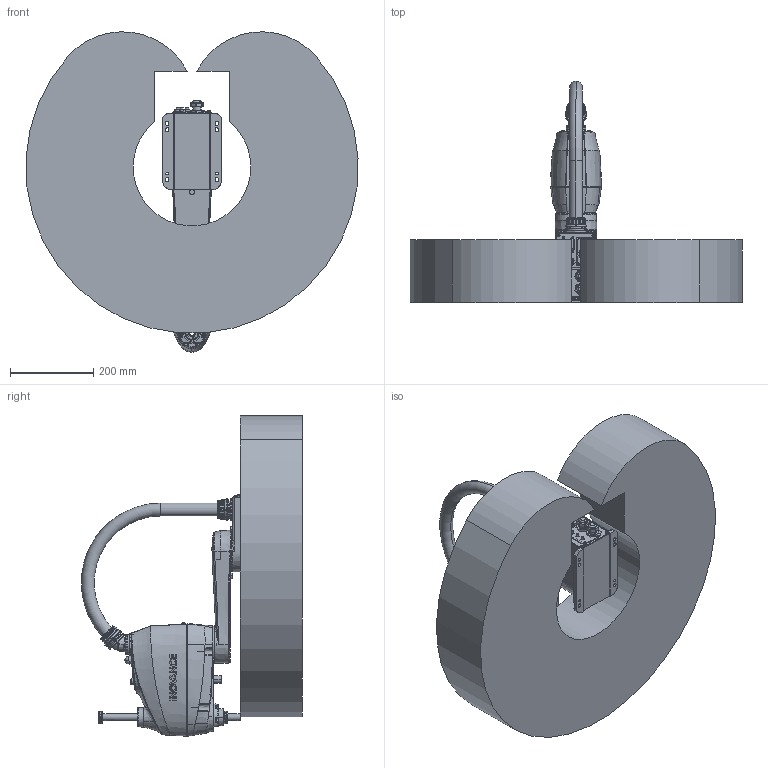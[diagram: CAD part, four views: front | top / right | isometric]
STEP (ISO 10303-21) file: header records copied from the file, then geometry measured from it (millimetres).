
FILE_DESCRIPTION((''),'2;1');
FILE_NAME('IR-S4-40Z15S3_ASM','2023-02-08T',('l2342'),(''),'CREO PARAMETRIC BY PTC INC, 2015290','CREO PARAMETRIC BY PTC INC, 2015290','');
FILE_SCHEMA(('AUTOMOTIVE_DESIGN { 1 0 10303 214 1 1 1 1 }'));
Products named in the file (7): BASE; J1; J2; SCREW; WORKING_RANGE; TUBE; IR-S4-40Z15S3_ASM
Assembly tree (6 placements, depth 2):
  IR-S4-40Z15S3_ASM
    BASE
    J1
    J2
    SCREW
    WORKING_RANGE
    TUBE
Bounding box: 798.98 x 531.7 x 770.97 mm (x, y, z)
Volume: 66762126.9 mm3; surface area: 1881219 mm2
Topology: 7 solids, 39 shells, 3730 faces, 9964 edges, 6294 vertices
Faces by surface type: plane 1537, cylinder 951, bspline 411, cone 405, extrusion 177, torus 128, sphere 118, revolution 3
Entity records: 188551 total; most frequent: CARTESIAN_POINT 70439, ORIENTED_EDGE 19592, DIRECTION 16382, EDGE_CURVE 9796, PRESENTATION_STYLE_ASSIGNMENT 9694, STYLED_ITEM 9646, CURVE_STYLE 9568, VERTEX_POINT 6294
